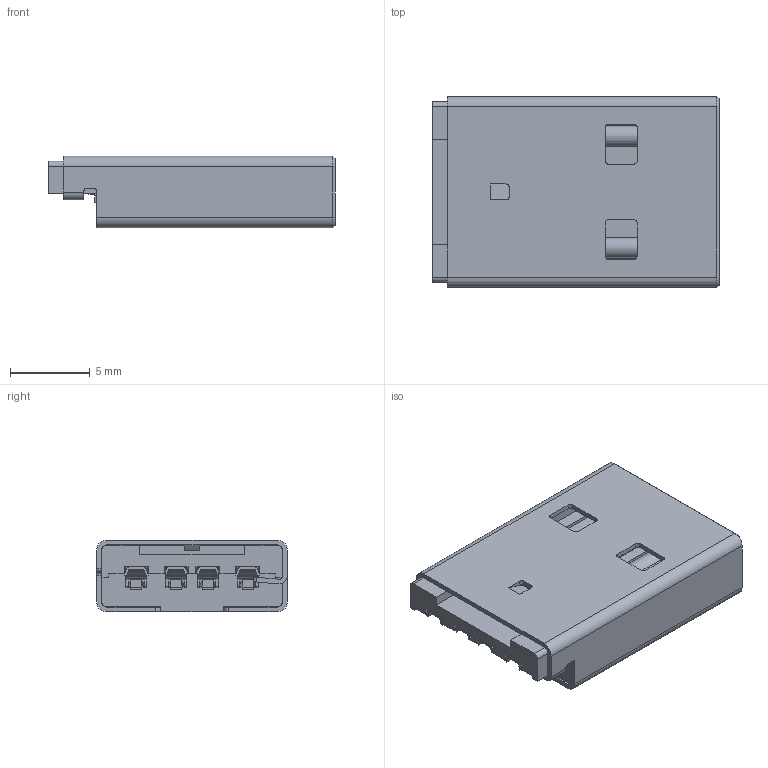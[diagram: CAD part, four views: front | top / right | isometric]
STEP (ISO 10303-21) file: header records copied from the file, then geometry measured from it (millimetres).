
FILE_DESCRIPTION((''),'2;1');
FILE_NAME('GNB-3D_ASM','2018-03-29T',('Administrator'),(''),'CREO PARAMETRIC BY PTC INC, 2016050','CREO PARAMETRIC BY PTC INC, 2016050','');
FILE_SCHEMA(('CONFIG_CONTROL_DESIGN'));
Length unit declared in the file: millimetre
Products named in the file (13): MANIFOLD_SOLID_BREP__8202_1_1_1; MANIFOLD_SOLID_BREP__12285_1_1_; MANIFOLD_SOLID_BREP__12285_1_2_; MANIFOLD_SOLID_BREP__12285_1_3_; MANIFOLD_SOLID_BREP__12285_1_4_; MANIFOLD_SOLID_BREP__12285_1_AS_ASM; MANIFOLD_SOLID_BREP__29842_1_1_; USB_AM_1_ASM_1_ASM_1_ASM_1_ASM__ASM; USB_AM_ASM_1__ASM_1_ASM_1_ASM_1_ASM; USB_AM_ASM_1_ASM_1_ASM_1_ASM; GNB_ASM_6_ASM_1_ASM; GNB_ASM_1_ASM; GNB-3D_ASM
Assembly tree (12 placements, depth 8):
  GNB-3D_ASM
    GNB_ASM_1_ASM
      GNB_ASM_6_ASM_1_ASM
        USB_AM_ASM_1_ASM_1_ASM_1_ASM
          USB_AM_ASM_1__ASM_1_ASM_1_ASM_1_ASM
            USB_AM_1_ASM_1_ASM_1_ASM_1_ASM__ASM
              MANIFOLD_SOLID_BREP__8202_1_1_1
              MANIFOLD_SOLID_BREP__12285_1_AS_ASM
                MANIFOLD_SOLID_BREP__12285_1_1_
                MANIFOLD_SOLID_BREP__12285_1_2_
                MANIFOLD_SOLID_BREP__12285_1_3_
                MANIFOLD_SOLID_BREP__12285_1_4_
              MANIFOLD_SOLID_BREP__29842_1_1_
Bounding box: 18 x 12 x 4.5 mm (x, y, z)
Volume: 584.3 mm3; surface area: 2017.1 mm2
Topology: 6 solids, 6 shells, 551 faces, 1573 edges, 1002 vertices
Faces by surface type: plane 379, cylinder 158, sphere 8, cone 6
Entity records: 18200 total; most frequent: CARTESIAN_POINT 3166, DIRECTION 3133, ORIENTED_EDGE 3130, EDGE_CURVE 1565, VECTOR 1167, LINE 1167, VERTEX_POINT 1002, AXIS2_PLACEMENT_3D 983
